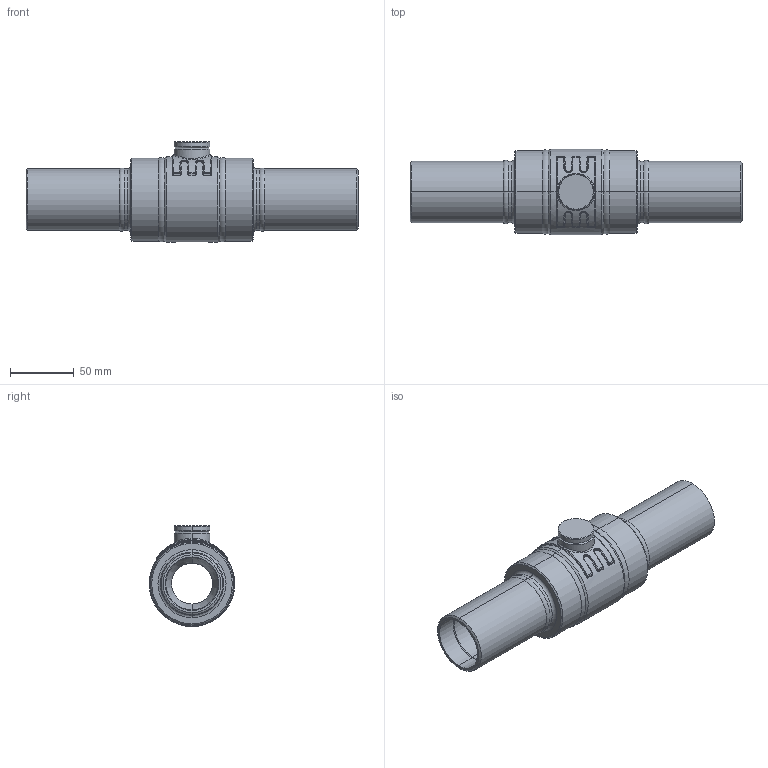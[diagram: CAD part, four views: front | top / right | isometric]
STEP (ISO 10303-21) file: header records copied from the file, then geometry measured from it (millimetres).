
FILE_DESCRIPTION((''),'2;1');
FILE_NAME('KHMO-BH-R-ISKT-040R032P040','2025-02-11T17:02:13',('jeitlers'),('KLINGER'),'CREO PARAMETRIC BY PTC INC, 2023014','CREO PARAMETRIC BY PTC INC, 2023014','');
FILE_SCHEMA(('CONFIG_CONTROL_DESIGN'));
Length unit declared in the file: millimetre
Products named in the file (1): KHMO-BH-R-ISKT-040R032P040
Bounding box: 260 x 67 x 79 mm (x, y, z)
Volume: 301258.6 mm3; surface area: 109824.2 mm2
Topology: 2 solids, 2 shells, 420 faces, 897 edges, 503 vertices
Faces by surface type: cylinder 127, torus 92, cone 78, plane 73, bspline 48, sphere 2
Entity records: 19478 total; most frequent: CARTESIAN_POINT 10470, DIRECTION 2030, ORIENTED_EDGE 1790, EDGE_CURVE 895, AXIS2_PLACEMENT_3D 881, CIRCLE 509, VERTEX_POINT 503, EDGE_LOOP 452
